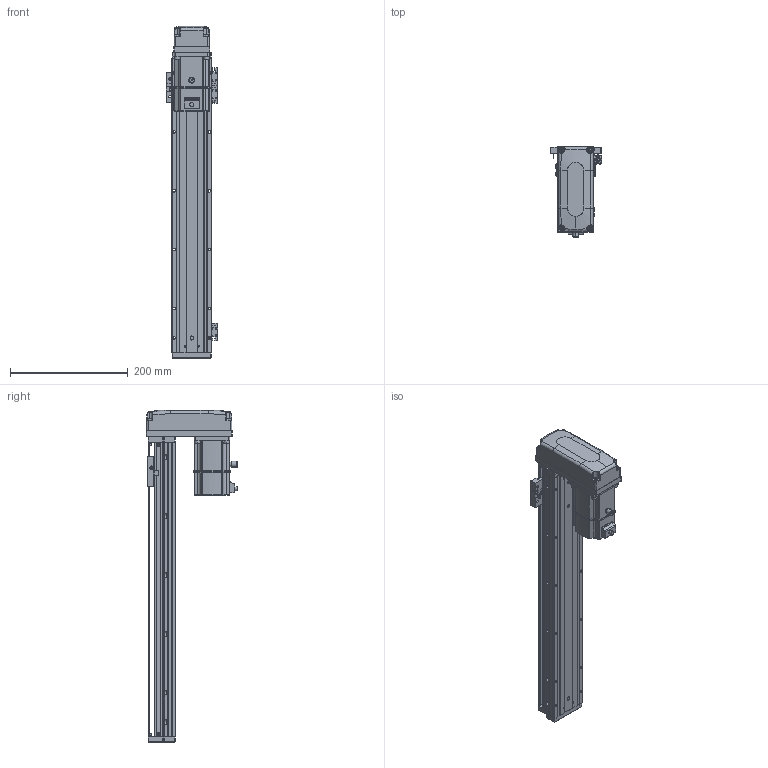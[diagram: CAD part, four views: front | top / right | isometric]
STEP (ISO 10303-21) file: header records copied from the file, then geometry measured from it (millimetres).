
FILE_DESCRIPTION (( 'STEP AP203' ), '1' );
FILE_NAME ('KTHA60-400-BM-M20-C4L.step', '2022-12-16T01:35:18', ( '微软用户' ), ( '微软中国' ), 'SwSTEP 2.0', 'SolidWorks 2020', '' );
FILE_SCHEMA (( 'CONFIG_CONTROL_DESIGN' ));
Length unit declared in the file: millimetre
Products named in the file (17): CTHA60-021; CTHA60-006-2_CTHA60-006-2; KTHA60-004; GBT 70.1-M4×16; _X2_4E0983F1_X0_200W_1; KTHA60-005; GBT77-2000M3-3; KTHA60-400-BM-M20-C4L; GB¨uT 70.2-M3¡Á5_M3¡Á6; GBT 70.1-M3℅6; GBT 70.3-M3℅6; CTHA60-016; EE_SX911P_R; KTHA60-002; CTHA60-017; BTH80-026; KTHA60-001_500
Assembly tree (51 placements, depth 2):
  KTHA60-400-BM-M20-C4L
    KTHA60-001_500
    KTHA60-004
    KTHA60-005
    GB¨uT 70.2-M3¡Á5_M3¡Á6  x6
    GBT 70.3-M3℅6  x4
    EE_SX911P_R  x3
    CTHA60-017  x3
    CTHA60-021  x2
    GBT 70.1-M4×16  x8
    GBT77-2000M3-3  x6
    GBT 70.1-M3℅6  x10
    CTHA60-016  x2
    KTHA60-002
    BTH80-026
    CTHA60-006-2_CTHA60-006-2
    _X2_4E0983F1_X0_200W_1
Bounding box: 87.72 x 155.2 x 564 mm (x, y, z)
Volume: 1325472 mm3; surface area: 350514.9 mm2
Topology: 54 solids, 54 shells, 2428 faces, 5773 edges, 3550 vertices
Faces by surface type: plane 1285, cylinder 644, cone 282, bspline 109, torus 92, sphere 16
Entity records: 44886 total; most frequent: CARTESIAN_POINT 10482, ORIENTED_EDGE 6594, DIRECTION 6588, EDGE_CURVE 3297, AXIS2_PLACEMENT_3D 2275, VERTEX_POINT 2059, VECTOR 2038, LINE 2038
